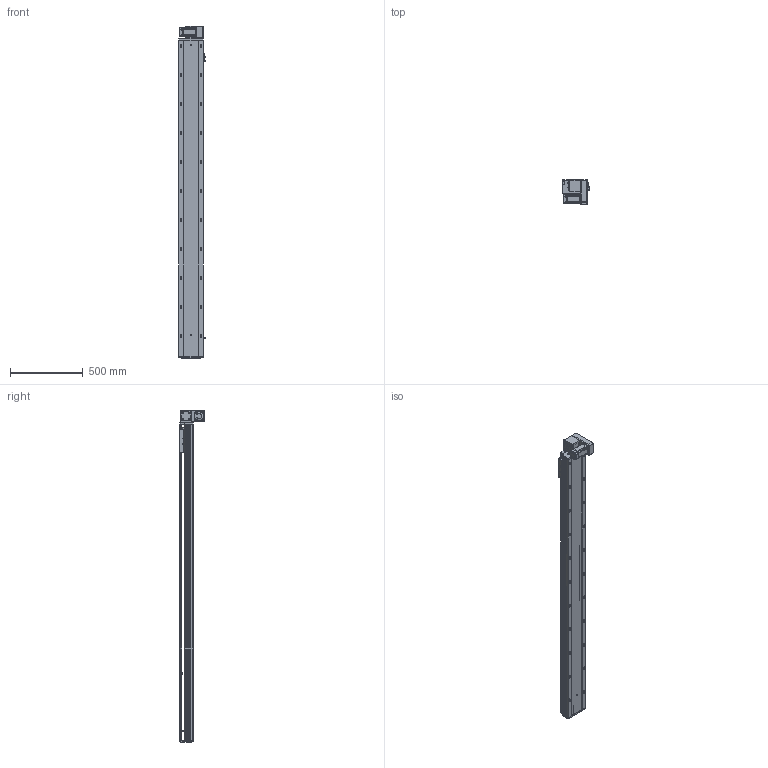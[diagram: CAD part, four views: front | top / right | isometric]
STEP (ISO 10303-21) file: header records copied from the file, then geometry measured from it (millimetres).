
FILE_DESCRIPTION (( 'STEP AP203' ), '1' );
FILE_NAME ('RY170-T-300-DR-P400W.SLDASM_1900.step', '2021-03-01T08:24:45', ( '盈信电脑' ), ( '东莞市道滘镇水果街19号' ), 'SwSTEP 2.0', 'SolidWorks 2012', '' );
FILE_SCHEMA (( 'CONFIG_CONTROL_DESIGN' ));
Length unit declared in the file: millimetre
Products named in the file (19): RY170-T-300-DR-P400W.SLDASM_1900; RY170-T-呴雄粣揤踡啣; 滅袉蝶18-10; 15; RY170-T蹟翐M4; RY120-T主同步轮轴承压盖; RY170-T肮祭湍揤踡輸1; RY170-T肮祭湍揤踡輸2; RY170-T肮祭謫裔啣; RY170同步轮电机安装板(400W); RY170肮祭謫萇儂欶; RY170肮祭謫ヶ裔啣; RY170翋肮祭謫釱; 覜茼ん672; RY170外置感应片(200共用）; RY170綴裔啣; RY170-T-300肮祭謫倰第菁釱-DR_1900; RY170肮祭湍臏賑輸; RY170-T-300肮祭謫倰第裔啣-DR_1900
Assembly tree (23 placements, depth 2):
  RY170-T-300-DR-P400W.SLDASM_1900
    RY170-T-300肮祭謫倰第菁釱-DR_1900
    RY170肮祭湍臏賑輸
    RY170-T-300肮祭謫倰第裔啣-DR_1900
    RY170綴裔啣
    覜茼ん672  x3
    RY170外置感应片(200共用）
    RY170肮祭謫ヶ裔啣
    RY170翋肮祭謫釱
    RY170同步轮电机安装板(400W)
    RY170肮祭謫萇儂欶
    RY170-T肮祭湍揤踡輸1  x2
    RY170-T肮祭湍揤踡輸2  x2
    RY120-T主同步轮轴承压盖
    RY170-T肮祭謫裔啣
    RY170-T蹟翐M4
    滅袉蝶18-10  x2
    RY170-T-呴雄粣揤踡啣
    15
Bounding box: 183.7 x 178 x 2288 mm (x, y, z)
Volume: 10671574.5 mm3; surface area: 3672962.9 mm2
Topology: 23 solids, 23 shells, 2986 faces, 8350 edges, 5325 vertices
Faces by surface type: cylinder 1384, plane 1272, cone 300, bspline 30
Entity records: 90573 total; most frequent: CARTESIAN_POINT 20783, ORIENTED_EDGE 14280, DIRECTION 13964, EDGE_CURVE 7140, AXIS2_PLACEMENT_3D 4956, VERTEX_POINT 4681, LINE 4052, VECTOR 4052
